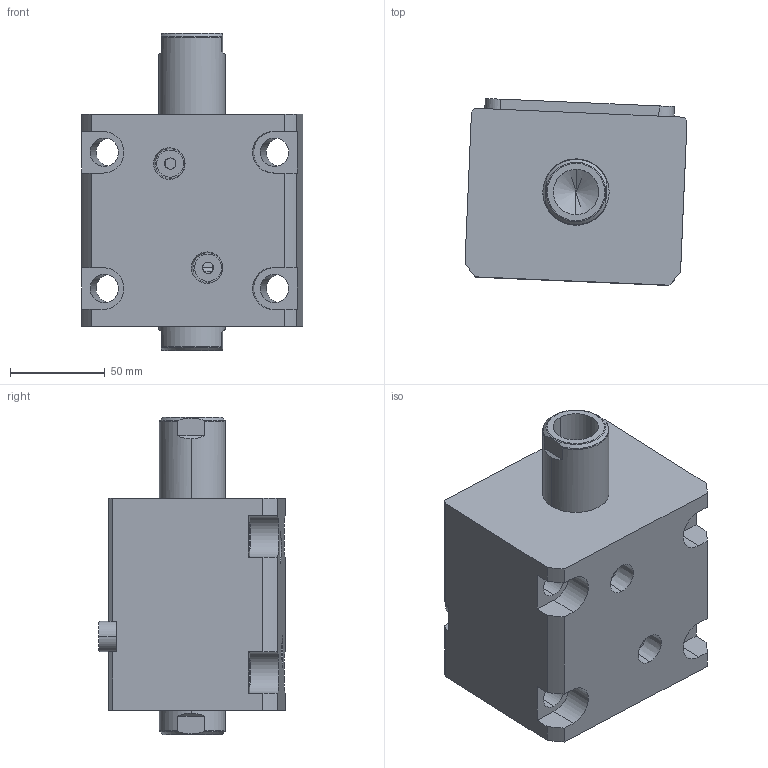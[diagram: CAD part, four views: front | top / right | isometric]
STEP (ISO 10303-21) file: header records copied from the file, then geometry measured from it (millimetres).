
FILE_DESCRIPTION (( 'STEP AP214' ), '1' );
FILE_NAME ('chtb-lw63x30n_asm.STEP', '2018-05-03T07:12:44', ( 'Windows' ), ( 'Microsoft' ), 'SwSTEP 2.0', 'SolidWorks 2015', '' );
FILE_SCHEMA (( 'AUTOMOTIVE_DESIGN' ));
Length unit declared in the file: millimetre
Products named in the file (5): CHTB-LW63X30NBT; CHTB-63QG; chtb-lw63x30n_asm; CHTB-LA63PJ; CHTB-SW63X30NHSG
Assembly tree (4 placements, depth 2):
  chtb-lw63x30n_asm
    CHTB-63QG
    CHTB-LW63X30NBT
    CHTB-SW63X30NHSG
    CHTB-LA63PJ
Bounding box: 117.3 x 98.74 x 168 mm (x, y, z)
Volume: 1025145 mm3; surface area: 155139.3 mm2
Topology: 4 solids, 4 shells, 194 faces, 557 edges, 377 vertices
Faces by surface type: cylinder 104, plane 50, cone 16, bspline 12, torus 12
Entity records: 18816 total; most frequent: CARTESIAN_POINT 13834, ORIENTED_EDGE 1098, DIRECTION 871, EDGE_CURVE 549, VERTEX_POINT 377, AXIS2_PLACEMENT_3D 335, EDGE_LOOP 222, VECTOR 201
